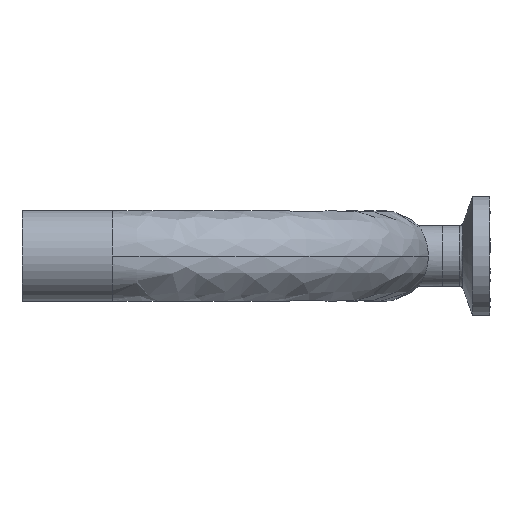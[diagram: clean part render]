
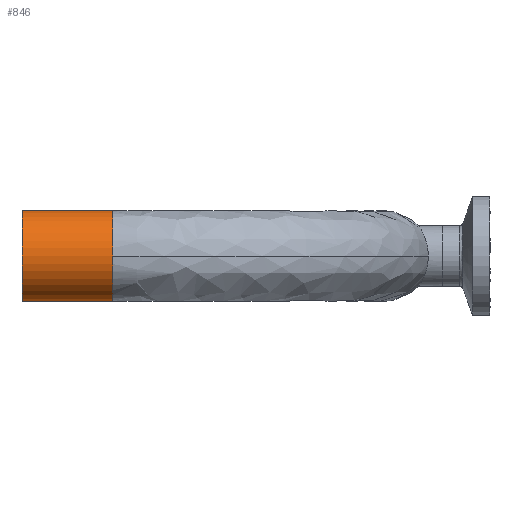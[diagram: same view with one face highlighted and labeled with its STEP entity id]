
A CAD part, left-side view. The second image highlights one B-rep face of the part: STEP entity #846.
In plain terms, the highlighted cylindrical face has radius 9.525 mm (diameter 19.05 mm), a partial arc.
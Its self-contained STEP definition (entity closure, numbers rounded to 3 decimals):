
#24 = CARTESIAN_POINT ( 'NONE',  ( -57.15, 57.15, -9.525 ) ) ;
#29 = ORIENTED_EDGE ( 'NONE', *, *, #1053, .T. ) ;
#32 = CARTESIAN_POINT ( 'NONE',  ( -57.15, 76.2, 0. ) ) ;
#125 = CIRCLE ( 'NONE', #230, 9.525 ) ;
#230 = AXIS2_PLACEMENT_3D ( 'NONE', #448, #1085, #1440 ) ;
#272 = DIRECTION ( 'NONE',  ( -1., 0., 0. ) ) ;
#278 = DIRECTION ( 'NONE',  ( 0., 0., 1. ) ) ;
#319 = AXIS2_PLACEMENT_3D ( 'NONE', #504, #631, #272 ) ;
#330 = VERTEX_POINT ( 'NONE', #784 ) ;
#333 = CARTESIAN_POINT ( 'NONE',  ( -57.15, 76.2, 9.525 ) ) ;
#377 = DIRECTION ( 'NONE',  ( 0., 1., 0. ) ) ;
#448 = CARTESIAN_POINT ( 'NONE',  ( -57.15, 57.15, 0. ) ) ;
#504 = CARTESIAN_POINT ( 'NONE',  ( -57.15, 57.15, 0. ) ) ;
#559 = VERTEX_POINT ( 'NONE', #333 ) ;
#598 = EDGE_CURVE ( 'NONE', #1161, #330, #125, .T. ) ;
#631 = DIRECTION ( 'NONE',  ( 0., -1., 0. ) ) ;
#674 = AXIS2_PLACEMENT_3D ( 'NONE', #770, #377, #278 ) ;
#685 = EDGE_LOOP ( 'NONE', ( #1413, #1095, #943, #1501, #29 ) ) ;
#690 = CYLINDRICAL_SURFACE ( 'NONE', #674, 9.525 ) ;
#720 = DIRECTION ( 'NONE',  ( 0., 0., 1. ) ) ;
#734 = FACE_OUTER_BOUND ( 'NONE', #685, .T. ) ;
#767 = VERTEX_POINT ( 'NONE', #851 ) ;
#770 = CARTESIAN_POINT ( 'NONE',  ( -57.15, 57.15, 0. ) ) ;
#784 = CARTESIAN_POINT ( 'NONE',  ( -57.15, 57.15, -9.525 ) ) ;
#846 = ADVANCED_FACE ( 'NONE', ( #734 ), #690, .T. ) ;
#851 = CARTESIAN_POINT ( 'NONE',  ( -57.15, 76.2, -9.525 ) ) ;
#918 = EDGE_CURVE ( 'NONE', #1323, #1161, #1483, .T. ) ;
#934 = CARTESIAN_POINT ( 'NONE',  ( -57.15, 57.15, 9.525 ) ) ;
#943 = ORIENTED_EDGE ( 'NONE', *, *, #918, .F. ) ;
#1003 = DIRECTION ( 'NONE',  ( 0., 1., 0. ) ) ;
#1005 = AXIS2_PLACEMENT_3D ( 'NONE', #32, #1455, #720 ) ;
#1026 = VECTOR ( 'NONE', #1003, 1000. ) ;
#1053 = EDGE_CURVE ( 'NONE', #559, #767, #1132, .T. ) ;
#1085 = DIRECTION ( 'NONE',  ( 0., -1., 0. ) ) ;
#1095 = ORIENTED_EDGE ( 'NONE', *, *, #598, .F. ) ;
#1120 = CARTESIAN_POINT ( 'NONE',  ( -57.15, 57.15, 9.525 ) ) ;
#1132 = CIRCLE ( 'NONE', #1005, 9.525 ) ;
#1161 = VERTEX_POINT ( 'NONE', #1254 ) ;
#1171 = VECTOR ( 'NONE', #1495, 1000. ) ;
#1223 = EDGE_CURVE ( 'NONE', #330, #767, #1482, .T. ) ;
#1254 = CARTESIAN_POINT ( 'NONE',  ( -66.675, 57.15, 0. ) ) ;
#1323 = VERTEX_POINT ( 'NONE', #934 ) ;
#1335 = LINE ( 'NONE', #1120, #1026 ) ;
#1413 = ORIENTED_EDGE ( 'NONE', *, *, #1223, .F. ) ;
#1440 = DIRECTION ( 'NONE',  ( -1., 0., 0. ) ) ;
#1455 = DIRECTION ( 'NONE',  ( 0., -1., 0. ) ) ;
#1482 = LINE ( 'NONE', #24, #1171 ) ;
#1483 = CIRCLE ( 'NONE', #319, 9.525 ) ;
#1495 = DIRECTION ( 'NONE',  ( 0., 1., 0. ) ) ;
#1501 = ORIENTED_EDGE ( 'NONE', *, *, #1519, .T. ) ;
#1519 = EDGE_CURVE ( 'NONE', #1323, #559, #1335, .T. ) ;
